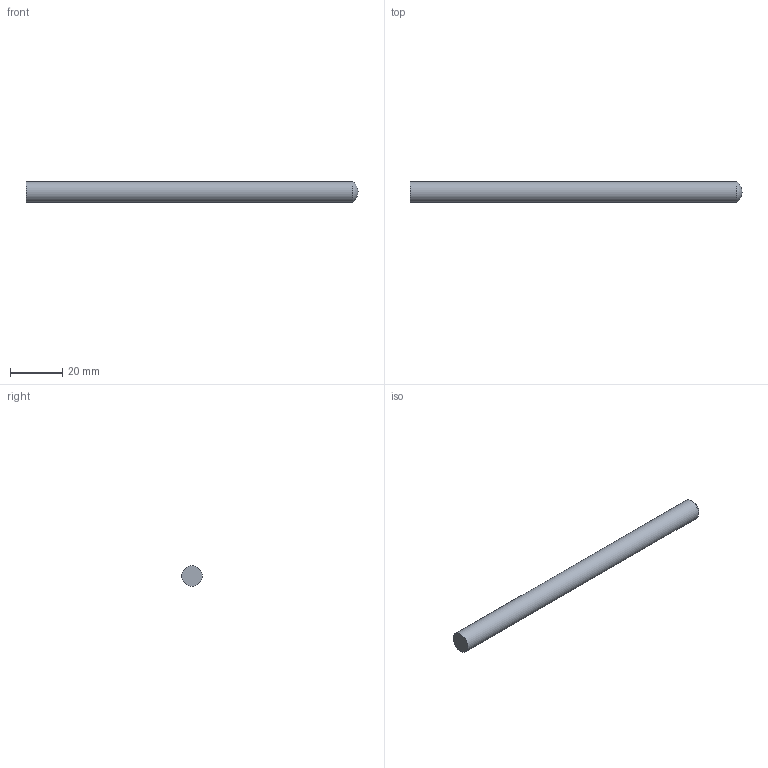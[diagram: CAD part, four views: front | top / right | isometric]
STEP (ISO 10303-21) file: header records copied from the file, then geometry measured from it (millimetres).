
FILE_DESCRIPTION(/* description */ (''),/* implementation_level */ '2;1');
FILE_NAME(/* name */ 'F:\CAD files\Itr\3D MARKETING MODELS\GRIPS\G1122-1\G1122-1.stp',/* time_stamp */ '2021-08-11T17:39:40-04:00',/* author */ ('mlampen'),/* organization */ (''),/* preprocessor_version */ 'ST-DEVELOPER v18.1',/* originating_system */ 'AutoCAD Mechanical',/* authorisation */ '');
FILE_SCHEMA (('AUTOMOTIVE_DESIGN { 1 0 10303 214 3 1 1 }'));
Length unit declared in the file: inch
Products named in the file (1): Product
Bounding box: 127 x 7.94 x 7.94 mm (x, y, z)
Volume: 6237.6 mm3; surface area: 3227.6 mm2
Topology: 1 solids, 1 shells, 3 faces, 5 edges, 3 vertices
Faces by surface type: sphere 1, cylinder 1, plane 1
Full cylindrical faces by diameter (mm): 7.938 x1
Entity records: 94 total; most frequent: DIRECTION 15, CARTESIAN_POINT 11, ORIENTED_EDGE 8, AXIS2_PLACEMENT_3D 7, EDGE_CURVE 4, FACE_OUTER_BOUND 3, EDGE_LOOP 3, CIRCLE 3
